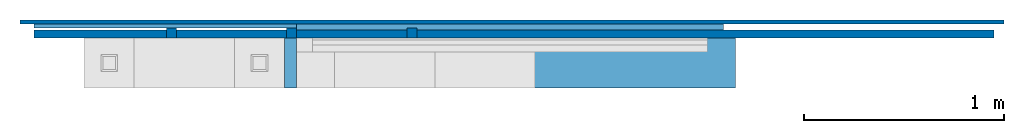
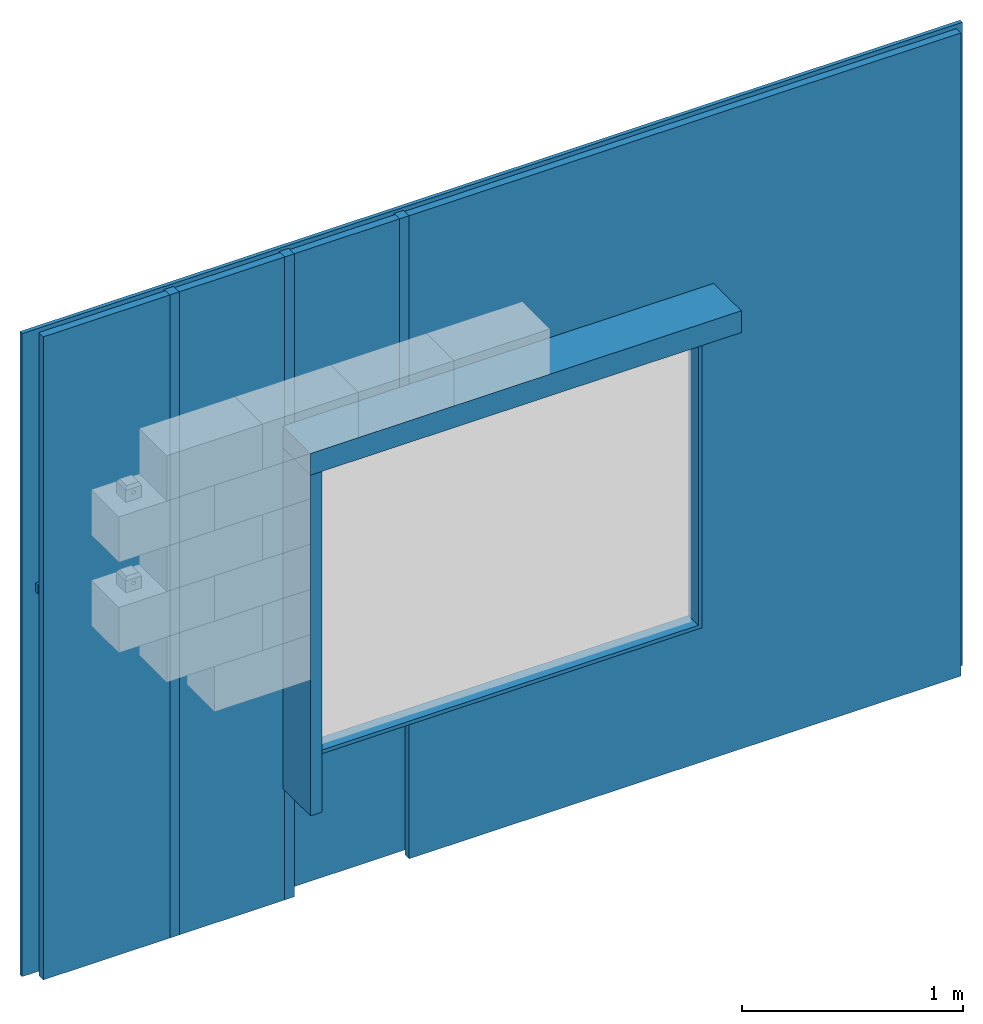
# One storey, part 1 of 2: 12 walls, 2 openings.
"""IFC4 building model written with IfcOpenShell, lengths in centimetres."""

from ifc_helpers import new_model, entity, si_unit, converted_unit, direction, frame, origin, place, context, subcontext, project, spatial, indexed_curve, outline, extrude, polygons, material, type_object, element, save


model = new_model("IFC4")

# Units and contexts
model_context = context("Model", 3, precision=0.001, world=origin(), true_north=direction((0.0, 1.0)))
body_context = subcontext(model_context, "Body", "Model", "MODEL_VIEW")
ifc_project = project(units=[si_unit("LENGTHUNIT", "METRE", prefix="CENTI"), si_unit("AREAUNIT", "SQUARE_METRE"), si_unit("VOLUMEUNIT", "CUBIC_METRE"), converted_unit("PLANEANGLEUNIT", "DEGREE", entity("IfcPlaneAngleMeasure", 0.017453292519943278), si_unit("PLANEANGLEUNIT", "RADIAN"), dimensions=[0, 0, 0, 0, 0, 0, 0])], contexts=[model_context])

# Site, building, storey
site_placement = place(None, origin())
site = spatial("IfcSite", under=ifc_project, at=site_placement, Name="Default", CompositionType="ELEMENT")
building_placement = place(site_placement, origin())
building = spatial("IfcBuilding", under=site, at=building_placement, CompositionType="ELEMENT")
storey_placement = place(building_placement, frame((0.0, 0.0, -23.700000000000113)))
storey = spatial("IfcBuildingStorey", under=building, at=storey_placement, Name="L00__ABOVE Slab", CompositionType="ELEMENT", Elevation=-23.700000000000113)

# Walls
ifc_material_1 = material(Name="_STRUCTURE__Wood Solid")
wall_type = type_object("IfcWallType", Name="Structural Framing : wll_s__LINTEL__Triqbriq, Rectangular__wp : Wood", PredefinedType="SOLIDWALL", material=ifc_material_1)
wall_1_placement = place(storey_placement, frame((3238.0256942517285, 2563.6164159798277, 50.0), z_axis=(0.0, 0.0, 1.0), x_axis=(0.0, 1.0, 0.0)))
element("IfcWall", 1, at=wall_1_placement, inside=storey, type_object=wall_type, material=ifc_material_1, Name="Structural Framing : wll_s__LINTEL__Triqbriq, Rectangular__wp : Wood", PredefinedType="SOLIDWALL", context=body_context, shape_type="SweptSolid", body=[
    extrude(outline(indexed_curve([(-2.999999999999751, -12.499999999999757), (3.0000000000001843, -12.499999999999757), (3.0000000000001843, 12.50000000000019), (-2.999999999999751, 12.50000000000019), (-2.999999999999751, -12.499999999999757)], self_intersect=False)), frame((12.500000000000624, -3.0, 0.0), z_axis=(0.0, 0.0, 1.0), x_axis=(0.0, -1.0, 0.0)), (0.0, 0.0, 1.0), 188.00000000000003),
])
wall_2_placement = place(storey_placement, frame((3238.0256942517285, 2563.6164159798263, 238.0)))
element("IfcWall", 2, at=wall_2_placement, inside=storey, type_object=wall_type, material=ifc_material_1, Name="Structural Framing : wll_s__LINTEL__Triqbriq, Rectangular__wp : Wood", PredefinedType="SOLIDWALL", context=body_context, shape_type="SweptSolid", body=[
    extrude(outline(indexed_curve([(-112.49999999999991, -12.499999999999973), (112.50000000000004, -12.499999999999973), (112.50000000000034, 12.499999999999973), (-112.50000000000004, 12.499999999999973), (-112.49999999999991, -12.499999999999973)], self_intersect=False)), frame((112.49999999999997, 12.500000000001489, 0.0)), (0.0, 0.0, 1.0), 12.000000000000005),
])
wall_3_placement = place(storey_placement, frame((0.0, 0.0, -12.0)))
element("IfcWall", 3, at=wall_3_placement, inside=storey, material=ifc_material_1, Name="Parts : Part", PredefinedType="NOTDEFINED", context=body_context, shape_type="SweptSolid", body=[
    extrude(outline(indexed_curve([(-2.500000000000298, -2.4999999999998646), (2.4999999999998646, -2.4999999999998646), (2.4999999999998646, 2.500000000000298), (-2.500000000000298, 2.500000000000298), (-2.500000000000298, -2.4999999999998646)], self_intersect=False)), frame((3241.525694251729, 2591.116415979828, 0.0), z_axis=(0.0, 0.0, 1.0), x_axis=(0.0, -1.0, 0.0)), (0.0, 0.0, 1.0), 354.99999999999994),
])
wall_4_placement = place(storey_placement, frame((0.0, 0.0, 238.0)))
element("IfcWall", 4, at=wall_4_placement, inside=storey, material=ifc_material_1, Name="Parts : Part", PredefinedType="NOTDEFINED", context=body_context, shape_type="SweptSolid", body=[
    extrude(outline(indexed_curve([(-2.4999999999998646, -2.4999999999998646), (2.500000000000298, -2.4999999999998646), (2.500000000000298, 2.500000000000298), (-2.4999999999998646, 2.500000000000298), (-2.4999999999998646, -2.4999999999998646)], self_intersect=False)), frame((3301.525694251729, 2591.11641597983, 0.0), z_axis=(0.0, 0.0, 1.0), x_axis=(0.0, -1.0, 0.0)), (0.0, 0.0, 1.0), 104.99999999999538),
])
wall_5_placement = place(storey_placement, frame((0.0, 0.0, -12.0)))
element("IfcWall", 5, at=wall_5_placement, inside=storey, material=ifc_material_1, Name="Parts : Part", PredefinedType="NOTDEFINED", context=body_context, shape_type="SweptSolid", body=[
    extrude(outline(indexed_curve([(-2.4999999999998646, -2.4999999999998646), (2.500000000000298, -2.4999999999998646), (2.500000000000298, 2.500000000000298), (-2.4999999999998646, 2.500000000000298), (-2.4999999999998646, -2.4999999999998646)], self_intersect=False)), frame((3181.5256942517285, 2591.11641597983, 0.0), z_axis=(0.0, 0.0, 1.0), x_axis=(0.0, -1.0, 0.0)), (0.0, 0.0, 1.0), 354.99999999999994),
])
ifc_material_2 = material(Name="_FCD LAYERS__Insulation__Wood-fiber__Gutex Multitherm", Category="Unassigned")
wall_6_placement = place(storey_placement, frame((0.0, 0.0, -12.0)))
element("IfcWall", 6, at=wall_6_placement, inside=storey, material=ifc_material_2, Name="Parts : Part", PredefinedType="NOTDEFINED", context=body_context, shape_type="SweptSolid", body=[
    extrude(outline(indexed_curve([(-2.0000000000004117, -33.000000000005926), (1.9999999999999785, -33.000000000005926), (2.0000000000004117, 33.00000000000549), (-1.9999999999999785, 33.00000000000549), (-2.0000000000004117, -33.000000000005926)], self_intersect=False)), frame((3146.025694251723, 2590.6164159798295, 0.0), z_axis=(0.0, 0.0, 1.0), x_axis=(0.0, -1.0, 0.0)), (0.0, 0.0, 1.0), 355.0),
])

# Wall, opening
ifc_material_3 = material(Name="_FCD VENT FINISH__Wood__Thermory C34", Category="Unassigned")
wall_7_placement = place(storey_placement, frame((0.0, 0.0, -12.0)))
wall_7 = element("IfcWall", 7, at=wall_7_placement, inside=storey, material=ifc_material_3, Name="Parts : Part", PredefinedType="NOTDEFINED", context=body_context, shape_type="SweptSolid", body=[
    extrude(outline(indexed_curve([(-1.000000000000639, -245.50000000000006), (0.9999999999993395, -245.50000000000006), (1.000000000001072, 245.50000000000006), (-0.9999999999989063, 245.50000000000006), (-1.000000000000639, -245.50000000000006)], self_intersect=False)), frame((3351.525694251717, 2596.6164159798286, 0.0), z_axis=(0.0, 0.0, 1.0), x_axis=(0.0, -1.0, 0.0)), (0.0, 0.0, 1.0), 355.0),
])
opening_1_placement = place(storey_placement, frame((0.0, 0.0, -12.0)))
element("IfcOpeningElement", 8, at=opening_1_placement, cuts=wall_7, Name="Parts : Part:1", PredefinedType="OPENING", context=body_context, shape_type="SweptSolid", body=[
    extrude(outline(indexed_curve([(-106.50000000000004, -88.00000000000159), (106.50000000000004, -88.00000000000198), (106.50000000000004, 88.00000000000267), (-106.50000000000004, 88.00000000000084), (-106.50000000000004, -88.00000000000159)], self_intersect=False)), frame((3350.525694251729, 2597.6164159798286, 162.0), z_axis=(0.0, -1.0, 0.0), x_axis=(1.0, 0.0, 0.0)), (0.0, 0.0, 1.0), 1.9999999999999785),
])

# Wall
wall_8_placement = place(storey_placement, frame((0.0, 0.0, -12.0)))
element("IfcWall", 9, at=wall_8_placement, inside=storey, material=ifc_material_2, Name="Parts : Part", PredefinedType="NOTDEFINED", context=body_context, shape_type="Tessellation", body=[
    polygons([(3588.025694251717, 2588.6164159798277, 355.0), (3592.025694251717, 2588.6164159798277, 355.0), (3592.025694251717, 2592.616415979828, 355.0), (3304.0256942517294, 2592.616415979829, 355.0), (3304.0256942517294, 2588.6164159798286, 355.0), (3457.025694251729, 2588.616415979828, 74.00000000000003), (3457.025694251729, 2588.616415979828, 250.00000000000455), (3457.025694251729, 2592.6164159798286, 250.0000000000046), (3457.025694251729, 2592.6164159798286, 74.00000000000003), (3304.0256942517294, 2588.6164159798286, 250.00000000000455), (3304.0256942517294, 2592.616415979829, 250.0000000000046), (3592.025694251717, 2588.6164159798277, 0.0), (3592.025694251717, 2592.616415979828, 0.0), (3304.0256942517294, 2588.6164159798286, 0.0), (3304.0256942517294, 2588.6164159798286, 74.00000000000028), (3304.0256942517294, 2592.616415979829, 74.00000000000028), (3304.0256942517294, 2592.616415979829, 0.0), (3588.025694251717, 2588.6164159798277, 0.0)], [[[1, 2, 3, 4, 5]], [[6, 7, 8, 9]], [[7, 10, 11, 8]], [[2, 12, 13, 3]], [[10, 5, 4, 11]], [[14, 15, 16, 17]], [[12, 2, 1, 5, 10, 7, 6, 15, 14, 18]], [[13, 17, 16, 9, 8, 11, 4, 3]], [[15, 6, 9, 16]], [[18, 14, 17, 13, 12]]], closed=True),
])

# Wall, opening
wall_9_placement = place(storey_placement, frame((0.0, 0.0, 62.0)))
wall_9 = element("IfcWall", 10, at=wall_9_placement, inside=storey, material=ifc_material_1, Name="Parts : Part", PredefinedType="NOTDEFINED", context=body_context, shape_type="SweptSolid", body=[
    extrude(outline(indexed_curve([(-4.500000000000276, -106.50000000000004), (4.499999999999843, -106.50000000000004), (4.499999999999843, 106.50000000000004), (-4.500000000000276, 106.50000000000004), (-4.500000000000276, -106.50000000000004)], self_intersect=False)), frame((3350.525694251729, 2593.1164159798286, 0.0), z_axis=(0.0, 0.0, 1.0), x_axis=(0.0, 1.0, 0.0)), (0.0, 0.0, 1.0), 176.0000000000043),
])
opening_2_placement = place(storey_placement, frame((0.0, 0.0, 62.0)))
element("IfcOpeningElement", 11, at=opening_2_placement, cuts=wall_9, Name="Parts : Part:1", PredefinedType="OPENING", context=body_context, shape_type="SweptSolid", body=[
    extrude(outline(indexed_curve([(64.87499999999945, -104.50000000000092), (78.87500000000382, -104.50000000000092), (78.87500000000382, 104.4999999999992), (64.87499999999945, 104.4999999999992), (59.874999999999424, 104.4999999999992), (4.87499999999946, 104.4999999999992), (-0.1250000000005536, 104.4999999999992), (-55.125000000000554, 104.4999999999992), (-60.125000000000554, 104.4999999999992), (-93.12500000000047, 104.4999999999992), (-93.12500000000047, -104.50000000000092), (-60.125000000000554, -104.50000000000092), (-55.125000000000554, -104.50000000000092), (-0.1250000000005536, -104.50000000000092), (4.87499999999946, -104.50000000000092), (59.874999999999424, -104.50000000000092), (64.87499999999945, -104.50000000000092)], self_intersect=False)), frame((3350.52569425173, 2597.616415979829, 80.87500000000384), z_axis=(0.0, -1.0, 0.0), x_axis=(0.0, 0.0, -1.0)), (0.0, 0.0, 1.0), 9.000000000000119),
])

# Walls
wall_10_placement = place(storey_placement, frame((0.0, 0.0, 198.0)))
element("IfcWall", 12, at=wall_10_placement, inside=storey, material=ifc_material_1, Name="Parts : Part", PredefinedType="NOTDEFINED", context=body_context, shape_type="SweptSolid", body=[
    extrude(outline(indexed_curve([(-1.0000000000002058, -65.5000000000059), (0.9999999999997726, -65.5000000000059), (1.000000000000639, 65.5000000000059), (-0.9999999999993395, 65.5000000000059), (-1.0000000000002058, -65.5000000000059)], self_intersect=False)), frame((3178.525694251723, 2594.6164159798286, 0.0), z_axis=(0.0, 0.0, 1.0), x_axis=(0.0, -1.0, 0.0)), (0.0, 0.0, 1.0), 5.0),
])
wall_11_placement = place(storey_placement, frame((0.0, 0.0, 238.0)))
element("IfcWall", 13, at=wall_11_placement, inside=storey, material=ifc_material_2, Name="Parts : Part", PredefinedType="NOTDEFINED", context=body_context, shape_type="SweptSolid", body=[
    extrude(outline(indexed_curve([(-2.0000000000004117, -27.500000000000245), (1.9999999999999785, -27.50000000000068), (2.0000000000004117, 27.49999999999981), (-1.9999999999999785, 27.49999999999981), (-2.0000000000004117, -27.500000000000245)], self_intersect=False)), frame((3271.5256942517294, 2590.616415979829, 0.0), z_axis=(0.0, 0.0, 1.0), x_axis=(0.0, -1.0, 0.0)), (0.0, 0.0, 1.0), 104.9999999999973),
])
wall_12_placement = place(storey_placement, frame((0.0, 0.0, -12.0)))
element("IfcWall", 14, at=wall_12_placement, inside=storey, material=ifc_material_2, Name="Parts : Part", PredefinedType="NOTDEFINED", context=body_context, shape_type="SweptSolid", body=[
    extrude(outline(indexed_curve([(-1.9999999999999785, -27.500000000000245), (2.0000000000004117, -27.500000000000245), (2.0000000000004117, 27.49999999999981), (-1.9999999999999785, 27.49999999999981), (-1.9999999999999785, -27.500000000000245)], self_intersect=False)), frame((3211.525694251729, 2590.6164159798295, 0.0), z_axis=(0.0, 0.0, 1.0), x_axis=(0.0, -1.0, 0.0)), (0.0, 0.0, 1.0), 355.0),
])

save(model, "model.ifc")
